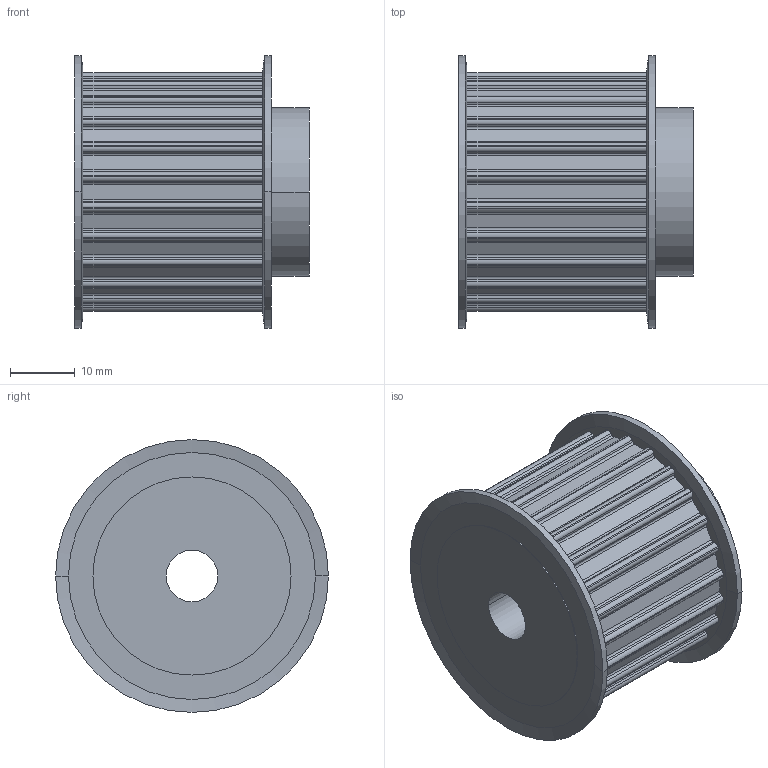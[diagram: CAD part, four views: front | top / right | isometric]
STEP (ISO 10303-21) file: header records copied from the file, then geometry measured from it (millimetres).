
FILE_DESCRIPTION( ( '' ), '1' );
FILE_NAME( 'C:/Users/Stangenbergd/Documents/CAD_Step/1/16642400.stp', '2021-10-19T09:38:02', ( '' ), ( '' ), ' ', ' ', ' ' );
FILE_SCHEMA( ( 'CONFIG_CONTROL_DESIGN' ) );
Length unit declared in the file: millimetre
Products named in the file (1): 1
Bounding box: 36.13 x 42 x 42 mm (x, y, z)
Volume: 31794.4 mm3; surface area: 8975.6 mm2
Topology: 1 solids, 1 shells, 219 faces, 628 edges, 416 vertices
Faces by surface type: cylinder 132, plane 79, cone 8
Entity records: 7318 total; most frequent: DIRECTION 1340, CARTESIAN_POINT 1264, ORIENTED_EDGE 1256, EDGE_CURVE 628, AXIS2_PLACEMENT_3D 492, VERTEX_POINT 416, LINE 356, VECTOR 356
